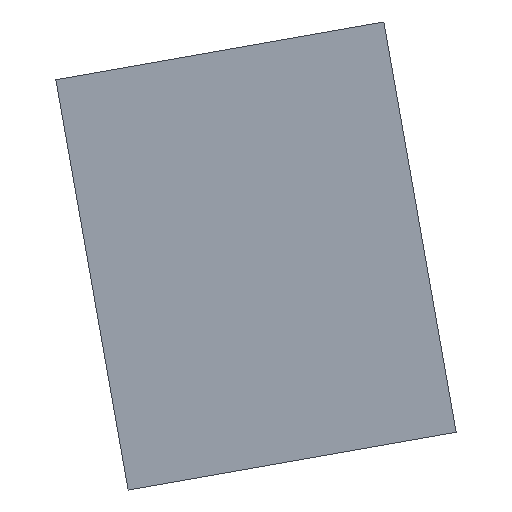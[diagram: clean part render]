
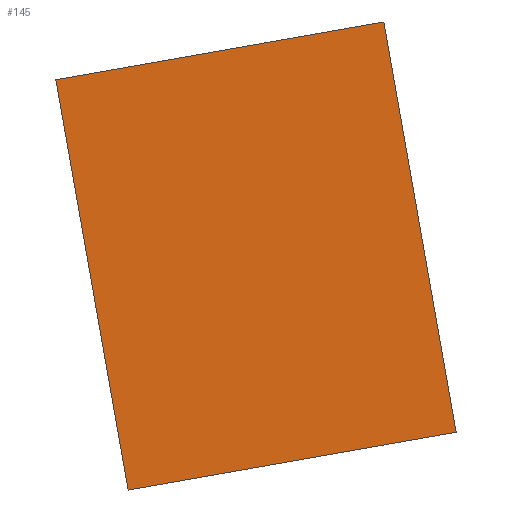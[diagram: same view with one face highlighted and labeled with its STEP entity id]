
A CAD part, left-side view. The second image highlights one B-rep face of the part: STEP entity #145.
In plain terms, the highlighted planar face has unit normal (-1, 0, 0).
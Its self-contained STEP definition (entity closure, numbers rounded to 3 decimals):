
#27=CARTESIAN_POINT('',(-617.,82.17,130.));
#28=VERTEX_POINT('',#27);
#45=CARTESIAN_POINT('',(-617.,3.385,143.892));
#46=VERTEX_POINT('',#45);
#53=CARTESIAN_POINT('',(-617.,82.17,130.));
#54=DIRECTION('',(0.0,-0.985,0.174));
#55=VECTOR('',#54,1.);
#56=LINE('',#53,#55);
#57=EDGE_CURVE('',#28,#46,#56,.T.);
#98=CARTESIAN_POINT('',(-617.,99.535,228.481));
#99=VERTEX_POINT('',#98);
#106=CARTESIAN_POINT('',(-617.,20.75,242.373));
#107=VERTEX_POINT('',#106);
#108=CARTESIAN_POINT('',(-617.,99.535,228.481));
#109=DIRECTION('',(0.0,-0.985,0.174));
#110=VECTOR('',#109,1.);
#111=LINE('',#108,#110);
#112=EDGE_CURVE('',#99,#107,#111,.T.);
#124=CARTESIAN_POINT('',(-617.,99.535,228.481));
#125=DIRECTION('',(-1.0,0.0,0.0));
#126=DIRECTION('',(0.0,-0.174,-0.985));
#127=AXIS2_PLACEMENT_3D('',#124,#125,#126);
#128=PLANE('',#127);
#129=CARTESIAN_POINT('',(-617.,99.535,228.481));
#130=DIRECTION('',(0.,-0.174,-0.985));
#131=VECTOR('',#130,1.);
#132=LINE('',#129,#131);
#133=EDGE_CURVE('',#99,#28,#132,.T.);
#134=ORIENTED_EDGE('',*,*,#133,.T.);
#135=ORIENTED_EDGE('',*,*,#57,.T.);
#136=CARTESIAN_POINT('',(-617.,20.75,242.373));
#137=DIRECTION('',(0.,-0.174,-0.985));
#138=VECTOR('',#137,1.);
#139=LINE('',#136,#138);
#140=EDGE_CURVE('',#107,#46,#139,.T.);
#141=ORIENTED_EDGE('',*,*,#140,.F.);
#142=ORIENTED_EDGE('',*,*,#112,.F.);
#143=EDGE_LOOP('',(#134,#135,#141,#142));
#144=FACE_BOUND('',#143,.T.);
#145=ADVANCED_FACE('',(#144),#128,.T.);
